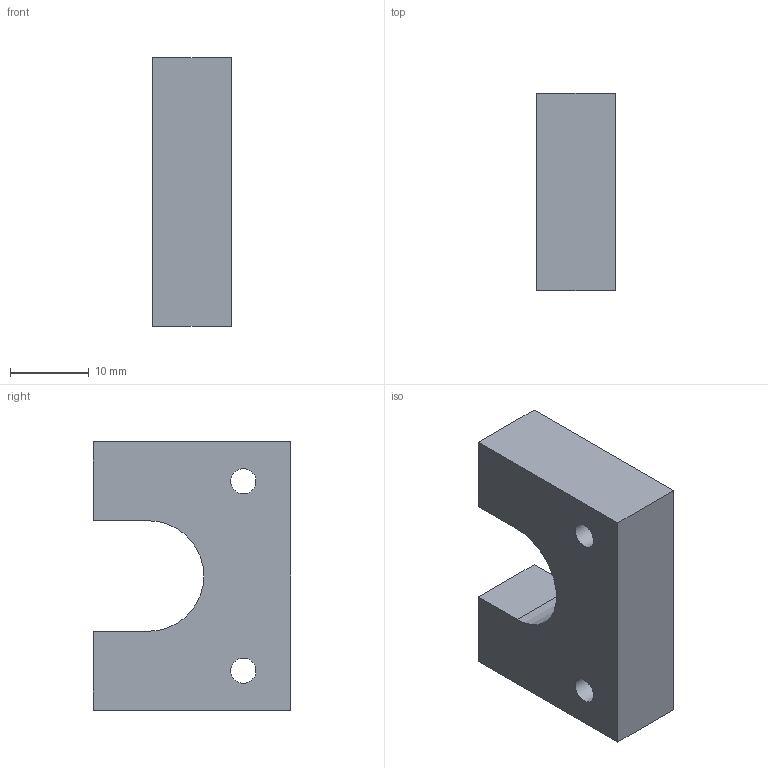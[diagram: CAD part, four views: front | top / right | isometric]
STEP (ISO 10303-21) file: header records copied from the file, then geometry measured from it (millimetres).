
FILE_DESCRIPTION (( 'STEP AP214' ), '1' );
FILE_NAME ('No.11S儅僌僱僢僩.STEP', '2019-07-26T00:59:51', ( '' ), ( '' ), 'SwSTEP 2.0', 'SolidWorks 2018', '' );
FILE_SCHEMA (( 'AUTOMOTIVE_DESIGN' ));
Length unit declared in the file: millimetre
Products named in the file (1): No.11Sマグネット
Bounding box: 10 x 25 x 34 mm (x, y, z)
Volume: 6589.5 mm3; surface area: 2918.9 mm2
Topology: 1 solids, 1 shells, 12 faces, 30 edges, 20 vertices
Faces by surface type: plane 9, cylinder 3
Full cylindrical faces by diameter (mm): 3.2 x2
Entity records: 392 total; most frequent: CARTESIAN_POINT 61, DIRECTION 60, ORIENTED_EDGE 56, EDGE_CURVE 28, LINE 22, VECTOR 22, VERTEX_POINT 20, AXIS2_PLACEMENT_3D 19
